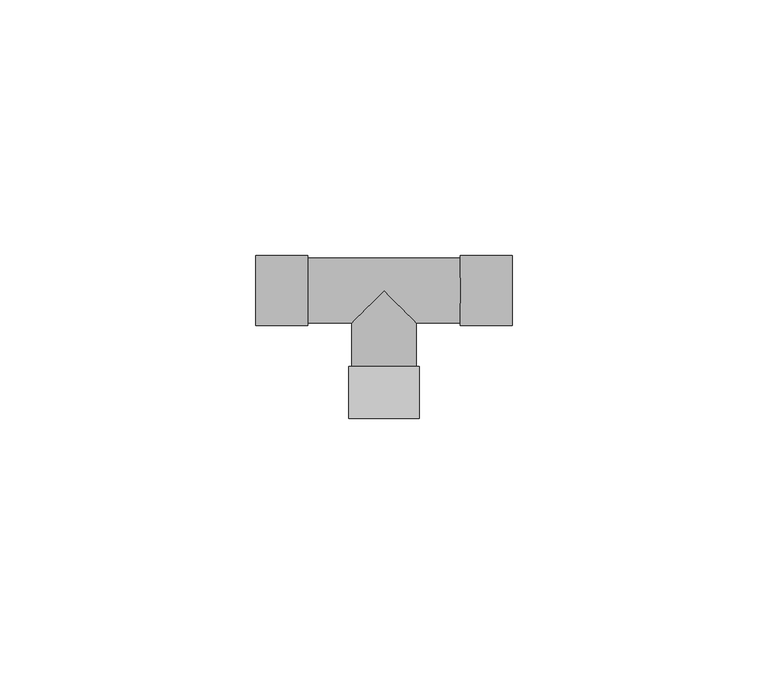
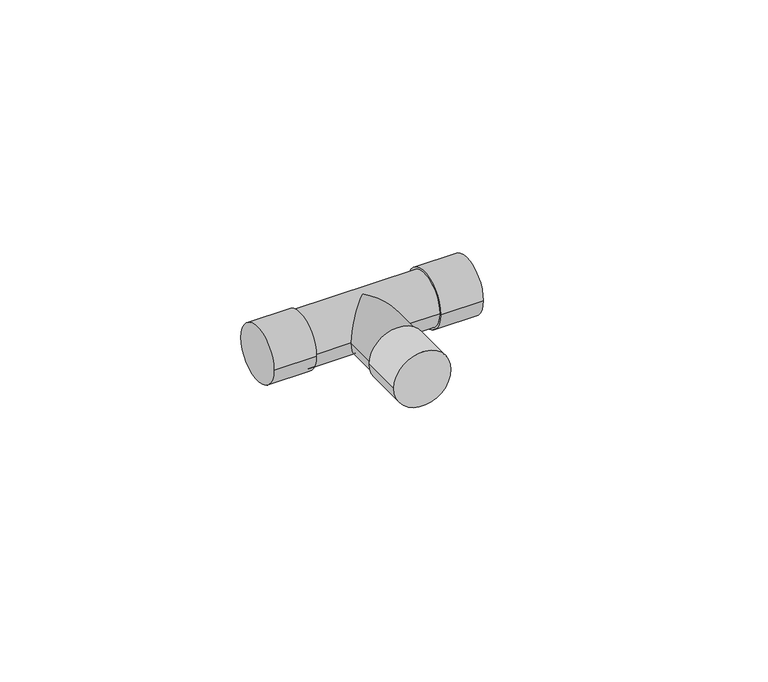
"""IFC4 building model written with IfcOpenShell, lengths in millimetres: pipe fitting geometry, Tê - Soldado - CU : Padrão."""

from ifc_helpers import new_model, si_unit, frame, origin, place, context, project, spatial, circle_curve, ellipse_curve, source, transform, mapped, element, save
from ifc_brep_helpers import plane_surface, cylinder_surface, advanced_brep


def pipe_fitting_da16c1b3(model_context):
    return source(origin(), model_context, "Body", "AdvancedBrep", [
        advanced_brep(
        [(6.847, -25.017, 0.0), (-6.847, -25.017, 0.0), (6.847, -14.838, 0.0), (-6.847, -14.838, 0.0), (6.35, -14.838, 0.0), (-6.35, -14.838, 0.0), (-25.0835, -6.847, 0.0), (-25.0835, 6.847, 0.0), (-14.9045, -6.847, 0.0), (-14.9045, 6.847, 0.0), (-14.9045, -6.35, 0.0), (-14.9045, 6.35, 0.0), (14.9045, 6.35, 0.0), (-6.35, -6.35, 0.0), (0.0, 0.0, 6.35), (6.35, -6.35, 0.0), (14.9045, -6.35, 0.0), (0.0, 0.0, -6.35), (14.9045, -6.847, 0.0), (14.9045, 6.847, 0.0), (25.0835, -6.847, 0.0), (25.0835, 6.847, 0.0)],
        [
            (0, 1, circle_curve(frame((0.0, -25.017, 0.0), z_axis=(0.0, -1.0, 0.0), x_axis=(-1.0, 0.0, 0.0)), 6.847)),
            (1, 0, circle_curve(frame((0.0, -25.017, 0.0), z_axis=(0.0, -1.0, 0.0), x_axis=(-1.0, 0.0, 0.0)), 6.847)),
            (2, 3, circle_curve(frame((0.0, -14.838, 0.0), z_axis=(0.0, 1.0, 0.0), x_axis=(-1.0, 0.0, 0.0)), 6.847)),
            (3, 2, circle_curve(frame((0.0, -14.838, 0.0), z_axis=(0.0, 1.0, 0.0), x_axis=(-1.0, 0.0, 0.0)), 6.847)),
            (4, 5, circle_curve(frame((0.0, -14.838, 0.0), z_axis=(0.0, -1.0, 0.0), x_axis=(1.0, 0.0, 0.0)), 6.35)),
            (5, 4, circle_curve(frame((0.0, -14.838, 0.0), z_axis=(0.0, -1.0, 0.0), x_axis=(1.0, 0.0, 0.0)), 6.35)),
            (0, 2),
            (3, 1),
            (6, 7, circle_curve(frame((-25.0835, 0.0, 0.0), z_axis=(-1.0, 0.0, 0.0), x_axis=(0.0, 1.0, 0.0)), 6.847)),
            (7, 6, circle_curve(frame((-25.0835, 0.0, 0.0), z_axis=(-1.0, 0.0, 0.0), x_axis=(0.0, 1.0, 0.0)), 6.847)),
            (8, 9, circle_curve(frame((-14.9045, 0.0, 0.0), z_axis=(1.0, 0.0, 0.0), x_axis=(0.0, 1.0, 0.0)), 6.847)),
            (9, 8, circle_curve(frame((-14.9045, 0.0, 0.0), z_axis=(1.0, 0.0, 0.0), x_axis=(0.0, 1.0, 0.0)), 6.847)),
            (10, 11, circle_curve(frame((-14.9045, 0.0, 0.0), z_axis=(-1.0, 0.0, 0.0), x_axis=(0.0, 1.0, 0.0)), 6.35)),
            (11, 10, circle_curve(frame((-14.9045, 0.0, 0.0), z_axis=(-1.0, 0.0, 0.0), x_axis=(0.0, 1.0, 0.0)), 6.35)),
            (6, 8),
            (9, 7),
            (12, 11),
            (10, 13),
            (13, 14, ellipse_curve(frame((0.0, 0.0, 0.0), z_axis=(-0.7071067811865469, 0.7071067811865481, 0.0), x_axis=(-0.707106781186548, -0.7071067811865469, 0.0)), 8.9802561, 6.35)),
            (14, 15, ellipse_curve(frame((0.0, 0.0, 0.0), z_axis=(0.7071067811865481, 0.7071067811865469, 0.0), x_axis=(-0.707106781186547, 0.7071067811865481, 0.0)), 8.9802561, 6.35)),
            (15, 16),
            (16, 12, circle_curve(frame((14.9045, 0.0, 0.0), z_axis=(-1.0, 0.0, 0.0), x_axis=(0.0, 1.0, 0.0)), 6.35)),
            (12, 16, circle_curve(frame((14.9045, 0.0, 0.0), z_axis=(-1.0, 0.0, 0.0), x_axis=(0.0, 1.0, 0.0)), 6.35)),
            (15, 17, ellipse_curve(frame((0.0, 0.0, 0.0), z_axis=(0.7071067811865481, 0.7071067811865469, 0.0), x_axis=(-0.707106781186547, 0.7071067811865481, 0.0)), 8.9802561, 6.35)),
            (17, 13, ellipse_curve(frame((0.0, 0.0, 0.0), z_axis=(-0.7071067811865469, 0.7071067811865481, 0.0), x_axis=(-0.707106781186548, -0.7071067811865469, 0.0)), 8.9802561, 6.35)),
            (18, 19, circle_curve(frame((14.9045, 0.0, 0.0), z_axis=(-1.0, 0.0, 0.0), x_axis=(0.0, 1.0, 0.0)), 6.847)),
            (19, 18, circle_curve(frame((14.9045, 0.0, 0.0), z_axis=(-1.0, 0.0, 0.0), x_axis=(0.0, 1.0, 0.0)), 6.847)),
            (20, 21, circle_curve(frame((25.0835, 0.0, 0.0), z_axis=(1.0, 0.0, 0.0), x_axis=(0.0, 1.0, 0.0)), 6.847)),
            (21, 20, circle_curve(frame((25.0835, 0.0, 0.0), z_axis=(1.0, 0.0, 0.0), x_axis=(0.0, 1.0, 0.0)), 6.847)),
            (18, 20),
            (21, 19),
            (4, 15),
            (13, 5),
        ],
        [
            plane_surface(frame((0.0, -25.017, 0.0), z_axis=(0.0, -1.0, 0.0), x_axis=(0.0, 0.0, 1.0))),
            plane_surface(frame((0.0, -14.838, 0.0), z_axis=(0.0, 1.0, 0.0), x_axis=(0.0, 0.0, 1.0))),
            cylinder_surface(frame((0.0, -25.017, 0.0), z_axis=(0.0, -1.0, 0.0), x_axis=(-1.0, 0.0, 0.0)), 6.847),
            plane_surface(frame((-25.0835, 0.0, 0.0), z_axis=(-1.0, 0.0, 0.0), x_axis=(0.0, 0.0, 1.0))),
            plane_surface(frame((-14.9045, 0.0, 0.0), z_axis=(1.0, 0.0, 0.0), x_axis=(0.0, 0.0, 1.0))),
            cylinder_surface(frame((-25.0835, 0.0, 0.0), z_axis=(-1.0, 0.0, 0.0), x_axis=(0.0, 1.0, 0.0)), 6.847),
            cylinder_surface(frame((-14.9045, 0.0, 0.0), z_axis=(-1.0, 0.0, 0.0), x_axis=(0.0, 1.0, 0.0)), 6.35),
            plane_surface(frame((14.9045, 0.0, 0.0), z_axis=(-1.0, 0.0, 0.0), x_axis=(0.0, 0.0, 1.0))),
            plane_surface(frame((25.0835, 0.0, 0.0), z_axis=(1.0, 0.0, 0.0), x_axis=(0.0, 0.0, 1.0))),
            cylinder_surface(frame((14.9045, 0.0, 0.0), z_axis=(-1.0, 0.0, 0.0), x_axis=(0.0, 1.0, 0.0)), 6.847),
            cylinder_surface(frame((0.0, 0.0, 0.0), z_axis=(0.0, 1.0, 0.0), x_axis=(1.0, 0.0, 0.0)), 6.35),
        ],
        [
            (0, [[1, 2]]),
            (1, [[3, 4], [5, 6]]),
            (2, [[-1, 7, -4, 8]]),
            (2, [[-2, -8, -3, -7]]),
            (3, [[9, 10]]),
            (4, [[11, 12], [13, 14]]),
            (5, [[-9, 15, -12, 16]]),
            (5, [[-10, -16, -11, -15]]),
            (6, [[17, -13, 18, 19, 20, 21, 22]]),
            (6, [[-17, 23, -21, 24, 25, -18, -14]]),
            (7, [[26, 27], [-22, -23]]),
            (8, [[28, 29]]),
            (9, [[-26, 30, -29, 31]]),
            (9, [[-27, -31, -28, -30]]),
            (10, [[32, -20, -19, 33, -5]]),
            (10, [[-32, -6, -33, -25, -24]]),
        ],
    ),
    ])


if __name__ == "__main__":
    model = new_model("IFC4")
    model_context = context("Model", 3, world=origin())
    ifc_project = project(units=[si_unit("LENGTHUNIT", "METRE", prefix="MILLI")], contexts=[model_context])
    site = spatial("IfcSite", under=ifc_project)
    building = spatial("IfcBuilding", under=site)
    placement = place(None, origin())
    pipe_fitting_shape = pipe_fitting_da16c1b3(model_context)
    element("IfcPipeFitting", 1, ObjectType="Tê - Soldado - CU : Padrão", at=placement, inside=building, context=model_context, shape_type="MappedRepresentation", body=[
        mapped(pipe_fitting_shape, transform((0.0, 0.0, 0.0), x_axis=(1.0, 0.0, 0.0), y_axis=(0.0, 1.0, 0.0), z_axis=(0.0, 0.0, 1.0))),
    ])
    save(model, "model.ifc")
